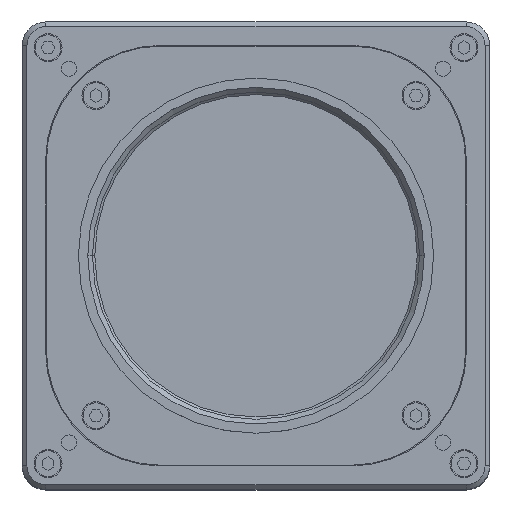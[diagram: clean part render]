
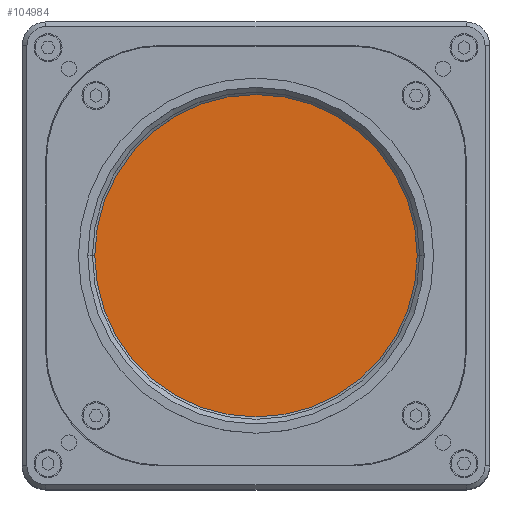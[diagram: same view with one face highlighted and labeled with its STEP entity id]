
A CAD part, top view. The second image highlights one B-rep face of the part: STEP entity #104984.
In plain terms, the highlighted planar face has unit normal (0, 0, 1).
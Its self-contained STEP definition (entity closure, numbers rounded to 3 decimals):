
#754 = CARTESIAN_POINT ( 'NONE',  ( 47.97, 59.636, 146.002 ) ) ;
#1085 = ORIENTED_EDGE ( 'NONE', *, *, #49188, .T. ) ;
#1316 = DIRECTION ( 'NONE',  ( 1., 0., 0. ) ) ;
#12961 = AXIS2_PLACEMENT_3D ( 'NONE', #102154, #53334, #1316 ) ;
#18598 = DIRECTION ( 'NONE',  ( 1., 0., 0. ) ) ;
#20354 = DIRECTION ( 'NONE',  ( 1., 0., 0. ) ) ;
#33500 = AXIS2_PLACEMENT_3D ( 'NONE', #140816, #79164, #18598 ) ;
#38891 = EDGE_CURVE ( 'NONE', #87535, #81332, #60288, .T. ) ;
#44466 = CARTESIAN_POINT ( 'NONE',  ( 10.72, 59.636, 146.002 ) ) ;
#45505 = PLANE ( 'NONE',  #84219 ) ;
#49188 = EDGE_CURVE ( 'NONE', #81332, #87535, #156494, .T. ) ;
#53334 = DIRECTION ( 'NONE',  ( 0., 0., 1. ) ) ;
#60288 = CIRCLE ( 'NONE', #12961, 37.25 ) ;
#79164 = DIRECTION ( 'NONE',  ( 0., 0., 1. ) ) ;
#81332 = VERTEX_POINT ( 'NONE', #754 ) ;
#84219 = AXIS2_PLACEMENT_3D ( 'NONE', #44466, #93805, #20354 ) ;
#87535 = VERTEX_POINT ( 'NONE', #133342 ) ;
#93805 = DIRECTION ( 'NONE',  ( 0., 0., 1. ) ) ;
#95489 = ORIENTED_EDGE ( 'NONE', *, *, #38891, .T. ) ;
#102154 = CARTESIAN_POINT ( 'NONE',  ( 10.72, 59.636, 146.002 ) ) ;
#104984 = ADVANCED_FACE ( 'NONE', ( #131123 ), #45505, .T. ) ;
#131123 = FACE_OUTER_BOUND ( 'NONE', #142944, .T. ) ;
#133342 = CARTESIAN_POINT ( 'NONE',  ( -26.53, 59.636, 146.002 ) ) ;
#140816 = CARTESIAN_POINT ( 'NONE',  ( 10.72, 59.636, 146.002 ) ) ;
#142944 = EDGE_LOOP ( 'NONE', ( #95489, #1085 ) ) ;
#156494 = CIRCLE ( 'NONE', #33500, 37.25 ) ;
